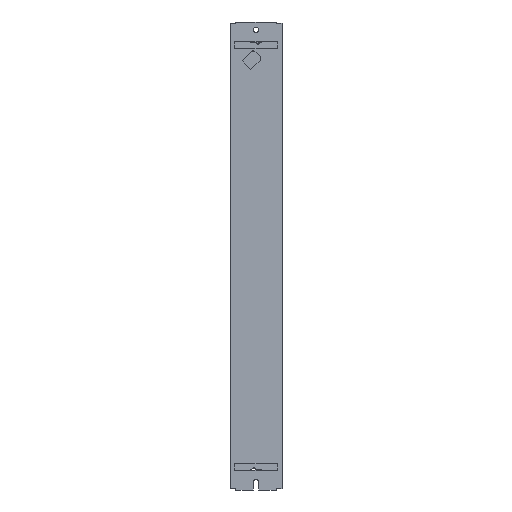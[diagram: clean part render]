
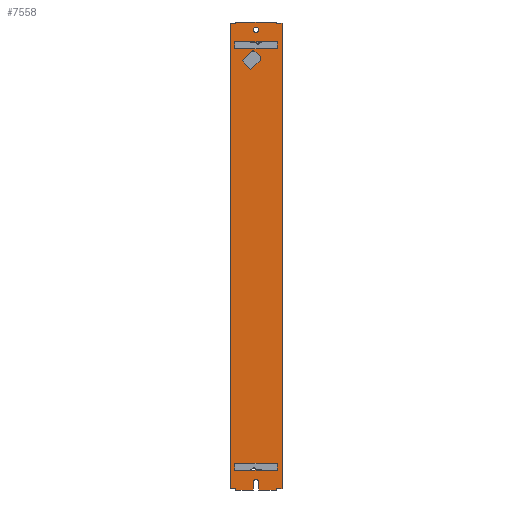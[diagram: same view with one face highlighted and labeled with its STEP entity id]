
A CAD part, front view. The second image highlights one B-rep face of the part: STEP entity #7558.
In plain terms, the highlighted planar face has unit normal (0, -1, 0).
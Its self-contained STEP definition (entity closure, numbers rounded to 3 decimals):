
#121=DIRECTION('',(0.,0.,-1.));
#122=VECTOR('',#121,358.);
#123=CARTESIAN_POINT('',(-20.,0.,179.));
#124=LINE('',#123,#122);
#424=CARTESIAN_POINT('',(0.,0.,174.));
#425=DIRECTION('',(0.,1.,0.));
#426=DIRECTION('',(1.,0.,0.));
#427=AXIS2_PLACEMENT_3D('',#424,#425,#426);
#432=CARTESIAN_POINT('',(0.,0.,174.));
#433=DIRECTION('',(0.,1.,0.));
#434=DIRECTION('',(-1.,0.,0.));
#435=AXIS2_PLACEMENT_3D('',#432,#433,#434);
#440=CARTESIAN_POINT('',(16.5,0.,180.));
#441=DIRECTION('',(0.,1.,0.));
#442=DIRECTION('',(0.,0.,-1.));
#443=AXIS2_PLACEMENT_3D('',#440,#441,#442);
#448=DIRECTION('',(-1.,0.,0.));
#449=VECTOR('',#448,3.5);
#450=CARTESIAN_POINT('',(20.,0.,179.));
#451=LINE('',#450,#449);
#455=DIRECTION('',(-1.,0.,0.));
#456=VECTOR('',#455,3.5);
#457=CARTESIAN_POINT('',(20.,0.,-179.));
#458=LINE('',#457,#456);
#462=CARTESIAN_POINT('',(16.5,0.,-180.));
#463=DIRECTION('',(0.,1.,0.));
#464=DIRECTION('',(-1.,0.,0.));
#465=AXIS2_PLACEMENT_3D('',#462,#463,#464);
#470=DIRECTION('',(0.,0.,1.));
#471=VECTOR('',#470,6.);
#472=CARTESIAN_POINT('',(2.05,0.,-180.));
#473=LINE('',#472,#471);
#477=CARTESIAN_POINT('',(0.,0.,-174.));
#478=DIRECTION('',(0.,1.,0.));
#479=DIRECTION('',(-1.,0.,0.));
#480=AXIS2_PLACEMENT_3D('',#477,#478,#479);
#485=DIRECTION('',(0.,0.,1.));
#486=VECTOR('',#485,6.);
#487=CARTESIAN_POINT('',(-2.05,0.,-180.));
#488=LINE('',#487,#486);
#492=CARTESIAN_POINT('',(-16.5,0.,-180.));
#493=DIRECTION('',(0.,1.,0.));
#494=DIRECTION('',(0.,0.,1.));
#495=AXIS2_PLACEMENT_3D('',#492,#493,#494);
#500=DIRECTION('',(1.,0.,0.));
#501=VECTOR('',#500,3.5);
#502=CARTESIAN_POINT('',(-20.,0.,-179.));
#503=LINE('',#502,#501);
#507=DIRECTION('',(1.,0.,0.));
#508=VECTOR('',#507,3.5);
#509=CARTESIAN_POINT('',(-20.,0.,179.));
#510=LINE('',#509,#508);
#514=CARTESIAN_POINT('',(-16.5,0.,180.));
#515=DIRECTION('',(0.,1.,0.));
#516=DIRECTION('',(1.,0.,0.));
#517=AXIS2_PLACEMENT_3D('',#514,#515,#516);
#522=DIRECTION('',(1.,0.,0.));
#523=VECTOR('',#522,31.);
#524=CARTESIAN_POINT('',(-15.5,0.,180.));
#525=LINE('',#524,#523);
#529=DIRECTION('',(0.,0.,1.));
#530=VECTOR('',#529,5.3);
#531=CARTESIAN_POINT('',(16.5,0.,-164.9));
#532=LINE('',#531,#530);
#536=DIRECTION('',(-1.,0.,0.));
#537=VECTOR('',#536,33.);
#538=CARTESIAN_POINT('',(16.5,0.,-159.6));
#539=LINE('',#538,#537);
#543=DIRECTION('',(0.,0.,-1.));
#544=VECTOR('',#543,5.3);
#545=CARTESIAN_POINT('',(-16.5,0.,-159.6));
#546=LINE('',#545,#544);
#550=DIRECTION('',(1.,0.,0.));
#551=VECTOR('',#550,33.);
#552=CARTESIAN_POINT('',(-16.5,0.,-164.9));
#553=LINE('',#552,#551);
#557=DIRECTION('',(0.,0.,-1.));
#558=VECTOR('',#557,5.3);
#559=CARTESIAN_POINT('',(-16.5,0.,164.9));
#560=LINE('',#559,#558);
#564=DIRECTION('',(1.,0.,0.));
#565=VECTOR('',#564,33.);
#566=CARTESIAN_POINT('',(-16.5,0.,159.6));
#567=LINE('',#566,#565);
#571=DIRECTION('',(0.,0.,1.));
#572=VECTOR('',#571,5.3);
#573=CARTESIAN_POINT('',(16.5,0.,159.6));
#574=LINE('',#573,#572);
#578=DIRECTION('',(-1.,0.,0.));
#579=VECTOR('',#578,33.);
#580=CARTESIAN_POINT('',(16.5,0.,164.9));
#581=LINE('',#580,#579);
#585=DIRECTION('',(-0.707,0.,0.707));
#586=VECTOR('',#585,5.5);
#587=CARTESIAN_POINT('',(3.113,0.,153.265));
#588=LINE('',#587,#586);
#592=CARTESIAN_POINT('',(-2.19,0.,155.74));
#593=DIRECTION('',(0.,-1.,0.));
#594=DIRECTION('',(0.707,0.,0.707));
#595=AXIS2_PLACEMENT_3D('',#592,#593,#594);
#600=DIRECTION('',(-0.707,0.,-0.707));
#601=VECTOR('',#600,10.);
#602=CARTESIAN_POINT('',(-3.604,0.,157.154));
#603=LINE('',#602,#601);
#607=DIRECTION('',(0.707,0.,-0.707));
#608=VECTOR('',#607,9.5);
#609=CARTESIAN_POINT('',(-10.675,0.,150.083));
#610=LINE('',#609,#608);
#614=DIRECTION('',(0.707,0.,0.707));
#615=VECTOR('',#614,10.);
#616=CARTESIAN_POINT('',(-3.958,0.,143.366));
#617=LINE('',#616,#615);
#621=CARTESIAN_POINT('',(1.699,0.,151.851));
#622=DIRECTION('',(0.,-1.,0.));
#623=DIRECTION('',(0.707,0.,-0.707));
#624=AXIS2_PLACEMENT_3D('',#621,#622,#623);
#1162=DIRECTION('',(0.,0.,-1.));
#1163=VECTOR('',#1162,358.);
#1164=CARTESIAN_POINT('',(20.,0.,179.));
#1165=LINE('',#1164,#1163);
#1308=DIRECTION('',(1.,0.,0.));
#1309=VECTOR('',#1308,13.45);
#1310=CARTESIAN_POINT('',(2.05,0.,-180.));
#1311=LINE('',#1310,#1309);
#1322=DIRECTION('',(1.,0.,0.));
#1323=VECTOR('',#1322,13.45);
#1324=CARTESIAN_POINT('',(-15.5,0.,-180.));
#1325=LINE('',#1324,#1323);
#6249=CARTESIAN_POINT('',(2.05,0.,174.));
#6250=CARTESIAN_POINT('',(-2.05,0.,174.));
#6251=VERTEX_POINT('',#6249);
#6252=VERTEX_POINT('',#6250);
#6253=CARTESIAN_POINT('',(-2.05,0.,-180.));
#6254=CARTESIAN_POINT('',(-2.05,0.,-174.));
#6255=VERTEX_POINT('',#6253);
#6256=VERTEX_POINT('',#6254);
#6257=CARTESIAN_POINT('',(2.05,0.,-174.));
#6258=VERTEX_POINT('',#6257);
#6259=CARTESIAN_POINT('',(2.05,0.,-180.));
#6260=VERTEX_POINT('',#6259);
#6625=CARTESIAN_POINT('',(16.5,0.,179.));
#6626=CARTESIAN_POINT('',(15.5,0.,180.));
#6627=VERTEX_POINT('',#6625);
#6628=VERTEX_POINT('',#6626);
#6629=CARTESIAN_POINT('',(20.,0.,179.));
#6630=VERTEX_POINT('',#6629);
#6631=CARTESIAN_POINT('',(-15.5,0.,180.));
#6632=CARTESIAN_POINT('',(-16.5,0.,179.));
#6633=VERTEX_POINT('',#6631);
#6634=VERTEX_POINT('',#6632);
#6635=CARTESIAN_POINT('',(-20.,0.,179.));
#6636=VERTEX_POINT('',#6635);
#6637=CARTESIAN_POINT('',(15.5,0.,-180.));
#6638=CARTESIAN_POINT('',(16.5,0.,-179.));
#6639=VERTEX_POINT('',#6637);
#6640=VERTEX_POINT('',#6638);
#6641=CARTESIAN_POINT('',(20.,0.,-179.));
#6642=VERTEX_POINT('',#6641);
#6643=CARTESIAN_POINT('',(-16.5,0.,-179.));
#6644=CARTESIAN_POINT('',(-15.5,0.,-180.));
#6645=VERTEX_POINT('',#6643);
#6646=VERTEX_POINT('',#6644);
#6647=CARTESIAN_POINT('',(-20.,0.,-179.));
#6648=VERTEX_POINT('',#6647);
#6675=CARTESIAN_POINT('',(16.5,0.,-164.9));
#6676=CARTESIAN_POINT('',(16.5,0.,-159.6));
#6677=VERTEX_POINT('',#6675);
#6678=VERTEX_POINT('',#6676);
#6679=CARTESIAN_POINT('',(-16.5,0.,-159.6));
#6680=VERTEX_POINT('',#6679);
#6681=CARTESIAN_POINT('',(-16.5,0.,-164.9));
#6682=VERTEX_POINT('',#6681);
#6683=CARTESIAN_POINT('',(-16.5,0.,164.9));
#6684=CARTESIAN_POINT('',(-16.5,0.,159.6));
#6685=VERTEX_POINT('',#6683);
#6686=VERTEX_POINT('',#6684);
#6687=CARTESIAN_POINT('',(16.5,0.,159.6));
#6688=VERTEX_POINT('',#6687);
#6689=CARTESIAN_POINT('',(16.5,0.,164.9));
#6690=VERTEX_POINT('',#6689);
#6691=CARTESIAN_POINT('',(3.113,0.,153.265));
#6692=CARTESIAN_POINT('',(-0.776,0.,157.154));
#6693=VERTEX_POINT('',#6691);
#6694=VERTEX_POINT('',#6692);
#6695=CARTESIAN_POINT('',(-3.604,0.,157.154));
#6696=VERTEX_POINT('',#6695);
#6697=CARTESIAN_POINT('',(-10.675,0.,150.083));
#6698=VERTEX_POINT('',#6697);
#6699=CARTESIAN_POINT('',(-3.958,0.,143.366));
#6700=VERTEX_POINT('',#6699);
#6701=CARTESIAN_POINT('',(3.113,0.,150.437));
#6702=VERTEX_POINT('',#6701);
#7481=CARTESIAN_POINT('',(-20.,0.,180.));
#7482=DIRECTION('',(0.,-1.,0.));
#7483=DIRECTION('',(0.,0.,-1.));
#7484=AXIS2_PLACEMENT_3D('',#7481,#7482,#7483);
#7485=PLANE('',#7484);
#7487=ORIENTED_EDGE('',*,*,#7486,.F.);
#7489=ORIENTED_EDGE('',*,*,#7488,.F.);
#7491=ORIENTED_EDGE('',*,*,#7490,.T.);
#7493=ORIENTED_EDGE('',*,*,#7492,.T.);
#7495=ORIENTED_EDGE('',*,*,#7494,.F.);
#7497=ORIENTED_EDGE('',*,*,#7496,.F.);
#7499=ORIENTED_EDGE('',*,*,#7498,.T.);
#7501=ORIENTED_EDGE('',*,*,#7500,.F.);
#7503=ORIENTED_EDGE('',*,*,#7502,.F.);
#7505=ORIENTED_EDGE('',*,*,#7504,.F.);
#7507=ORIENTED_EDGE('',*,*,#7506,.F.);
#7508=ORIENTED_EDGE('',*,*,#7469,.F.);
#7509=ORIENTED_EDGE('',*,*,#7280,.F.);
#7511=ORIENTED_EDGE('',*,*,#7510,.T.);
#7513=ORIENTED_EDGE('',*,*,#7512,.F.);
#7515=ORIENTED_EDGE('',*,*,#7514,.T.);
#7516=EDGE_LOOP('',(#7487,#7489,#7491,#7493,#7495,#7497,#7499,#7501,#7503,#7505,
#7507,#7508,#7509,#7511,#7513,#7515));
#7517=FACE_OUTER_BOUND('',#7516,.F.);
#7519=ORIENTED_EDGE('',*,*,#7518,.F.);
#7521=ORIENTED_EDGE('',*,*,#7520,.F.);
#7522=EDGE_LOOP('',(#7519,#7521));
#7523=FACE_BOUND('',#7522,.F.);
#7525=ORIENTED_EDGE('',*,*,#7524,.T.);
#7527=ORIENTED_EDGE('',*,*,#7526,.T.);
#7529=ORIENTED_EDGE('',*,*,#7528,.T.);
#7531=ORIENTED_EDGE('',*,*,#7530,.T.);
#7532=EDGE_LOOP('',(#7525,#7527,#7529,#7531));
#7533=FACE_BOUND('',#7532,.F.);
#7535=ORIENTED_EDGE('',*,*,#7534,.T.);
#7537=ORIENTED_EDGE('',*,*,#7536,.T.);
#7539=ORIENTED_EDGE('',*,*,#7538,.T.);
#7541=ORIENTED_EDGE('',*,*,#7540,.T.);
#7542=EDGE_LOOP('',(#7535,#7537,#7539,#7541));
#7543=FACE_BOUND('',#7542,.F.);
#7545=ORIENTED_EDGE('',*,*,#7544,.T.);
#7547=ORIENTED_EDGE('',*,*,#7546,.T.);
#7549=ORIENTED_EDGE('',*,*,#7548,.T.);
#7551=ORIENTED_EDGE('',*,*,#7550,.T.);
#7553=ORIENTED_EDGE('',*,*,#7552,.T.);
#7555=ORIENTED_EDGE('',*,*,#7554,.T.);
#7556=EDGE_LOOP('',(#7545,#7547,#7549,#7551,#7553,#7555));
#7557=FACE_BOUND('',#7556,.F.);
#428=CIRCLE('',#427,2.05);
#436=CIRCLE('',#435,2.05);
#444=CIRCLE('',#443,1.);
#466=CIRCLE('',#465,1.);
#481=CIRCLE('',#480,2.05);
#496=CIRCLE('',#495,1.);
#518=CIRCLE('',#517,1.);
#596=CIRCLE('',#595,2.);
#625=CIRCLE('',#624,2.);
#7280=EDGE_CURVE('',#6636,#6648,#124,.T.);
#7469=EDGE_CURVE('',#6648,#6645,#503,.T.);
#7486=EDGE_CURVE('',#6627,#6628,#444,.T.);
#7488=EDGE_CURVE('',#6630,#6627,#451,.T.);
#7490=EDGE_CURVE('',#6630,#6642,#1165,.T.);
#7492=EDGE_CURVE('',#6642,#6640,#458,.T.);
#7494=EDGE_CURVE('',#6639,#6640,#466,.T.);
#7496=EDGE_CURVE('',#6260,#6639,#1311,.T.);
#7498=EDGE_CURVE('',#6260,#6258,#473,.T.);
#7500=EDGE_CURVE('',#6256,#6258,#481,.T.);
#7502=EDGE_CURVE('',#6255,#6256,#488,.T.);
#7504=EDGE_CURVE('',#6646,#6255,#1325,.T.);
#7506=EDGE_CURVE('',#6645,#6646,#496,.T.);
#7510=EDGE_CURVE('',#6636,#6634,#510,.T.);
#7512=EDGE_CURVE('',#6633,#6634,#518,.T.);
#7514=EDGE_CURVE('',#6633,#6628,#525,.T.);
#7518=EDGE_CURVE('',#6251,#6252,#428,.T.);
#7520=EDGE_CURVE('',#6252,#6251,#436,.T.);
#7524=EDGE_CURVE('',#6677,#6678,#532,.T.);
#7526=EDGE_CURVE('',#6678,#6680,#539,.T.);
#7528=EDGE_CURVE('',#6680,#6682,#546,.T.);
#7530=EDGE_CURVE('',#6682,#6677,#553,.T.);
#7534=EDGE_CURVE('',#6685,#6686,#560,.T.);
#7536=EDGE_CURVE('',#6686,#6688,#567,.T.);
#7538=EDGE_CURVE('',#6688,#6690,#574,.T.);
#7540=EDGE_CURVE('',#6690,#6685,#581,.T.);
#7544=EDGE_CURVE('',#6693,#6694,#588,.T.);
#7546=EDGE_CURVE('',#6694,#6696,#596,.T.);
#7548=EDGE_CURVE('',#6696,#6698,#603,.T.);
#7550=EDGE_CURVE('',#6698,#6700,#610,.T.);
#7552=EDGE_CURVE('',#6700,#6702,#617,.T.);
#7554=EDGE_CURVE('',#6702,#6693,#625,.T.);
#7558=ADVANCED_FACE('',(#7517,#7523,#7533,#7543,#7557),#7485,.T.);
